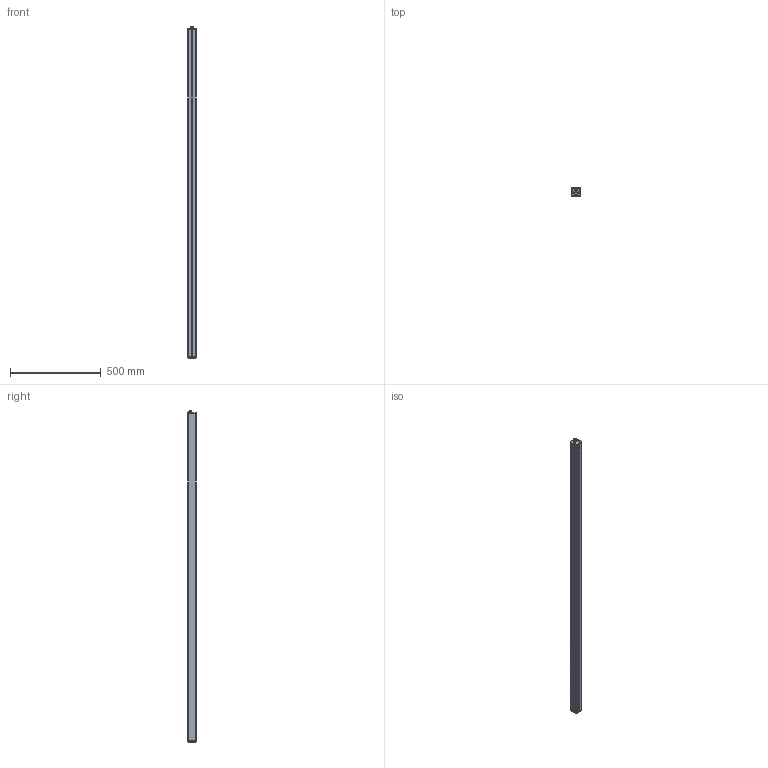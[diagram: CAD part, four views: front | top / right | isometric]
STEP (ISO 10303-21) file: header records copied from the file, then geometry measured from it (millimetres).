
FILE_DESCRIPTION (( 'STEP AP214' ), '1' );
FILE_NAME ('NBAR72.STEP', '2012-01-14T09:01:38', ( 'JRLEDS' ), ( '' ), 'SwSTEP 2.0', 'SolidWorks 2010', '' );
FILE_SCHEMA (( 'AUTOMOTIVE_DESIGN' ));
Length unit declared in the file: millimetre
Products named in the file (8): Embout ALU; PROT-NBAR72; screw_din_912-m5x0_8-10-8_8_Default; Embout percé ALU; SW3DPS-FISCHER_DBP_103_Z053-130-DEFAULT; CIR6LED; NBAR72; PROF-NBAR72
Assembly tree (21 placements, depth 2):
  NBAR72
    screw_din_912-m5x0_8-10-8_8_Default  x4
    CIR6LED  x12
    PROF-NBAR72
    PROT-NBAR72
    SW3DPS-FISCHER_DBP_103_Z053-130-DEFAULT
    Embout percé ALU
    Embout ALU
Bounding box: 45.1 x 45 x 1830 mm (x, y, z)
Volume: 1183084.5 mm3; surface area: 1134959.1 mm2
Topology: 93 solids, 93 shells, 798 faces, 1727 edges, 1114 vertices
Faces by surface type: plane 525, cylinder 235, cone 16, torus 14, sphere 8
Entity records: 9156 total; most frequent: DIRECTION 1318, CARTESIAN_POINT 1285, ORIENTED_EDGE 1180, EDGE_CURVE 590, AXIS2_PLACEMENT_3D 464, LINE 390, VECTOR 390, VERTEX_POINT 379
